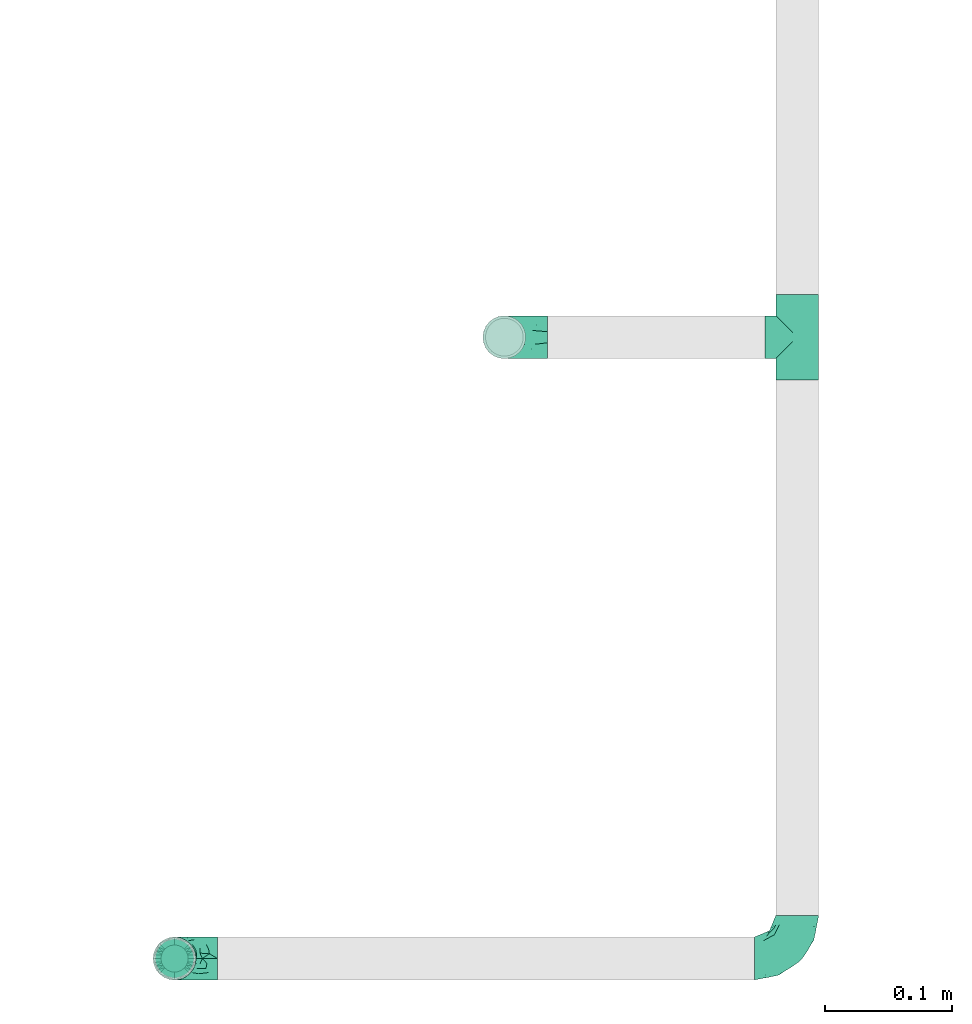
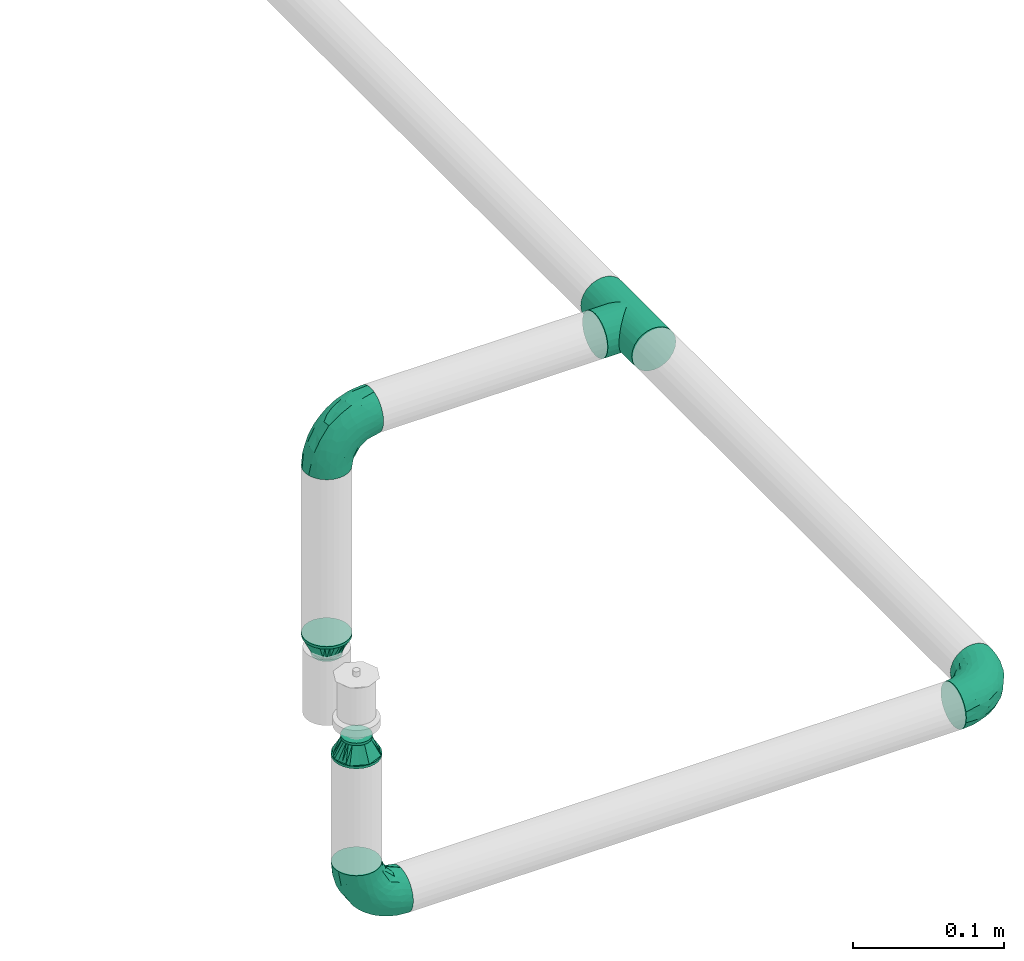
# One storey, part 25 of 157: 6 flow fittings.
"""IFC2X3 building model written with IfcOpenShell, lengths in millimetres."""

from ifc_helpers import new_model, entity, si_unit, converted_unit, derived_unit, direction, frame, origin_with_axes, place, context, subcontext, project, spatial, open_shell, surface_model, source, transform, mapped, type_object, element, save


model = new_model("IFC2X3")

# Units and contexts
model_context = context("Model", 3, precision=0.01, world=frame((0.0, 4.29681676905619e-09, 0.0)), true_north=direction((4.01073788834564e-13, 1.0)))
plan_context = context("Plan", 3, precision=0.01, world=frame((0.0, 4.29681676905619e-09, 0.0)), true_north=direction((4.01073788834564e-13, 1.0)))
body_context = subcontext(model_context, "Body", "Model", "MODEL_VIEW")
ifc_project = project(units=[converted_unit("PLANEANGLEUNIT", "DEGREE", entity("IfcPositiveLengthMeasure", 0.0174532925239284), si_unit("PLANEANGLEUNIT", "RADIAN"), dimensions=[0, 0, 0, 0, 0, 0, 0]), si_unit("AREAUNIT", "SQUARE_METRE"), si_unit("LENGTHUNIT", "METRE", prefix="MILLI"), si_unit("MASSUNIT", "GRAM", prefix="KILO"), si_unit("POWERUNIT", "WATT"), si_unit("PRESSUREUNIT", "PASCAL"), si_unit("FORCEUNIT", "NEWTON", prefix="KILO"), si_unit("ELECTRICCURRENTUNIT", "AMPERE"), si_unit("THERMODYNAMICTEMPERATUREUNIT", "DEGREE_CELSIUS"), si_unit("TIMEUNIT", "SECOND"), si_unit("VOLUMEUNIT", "CUBIC_METRE"), derived_unit("LINEARVELOCITYUNIT", [(si_unit("LENGTHUNIT", "METRE"), 1), (si_unit("TIMEUNIT", "SECOND"), -1)]), derived_unit("VOLUMETRICFLOWRATEUNIT", [(si_unit("VOLUMEUNIT", "CUBIC_METRE"), 1), (si_unit("TIMEUNIT", "SECOND"), -1)]), derived_unit("THERMALTRANSMITTANCEUNIT", [(si_unit("POWERUNIT", "WATT"), 1), (si_unit("THERMODYNAMICTEMPERATUREUNIT", "KELVIN"), -1), (si_unit("AREAUNIT", "SQUARE_METRE"), -1)])], contexts=[model_context, plan_context])

# Site, building, storey
site_placement = place(None, frame((0.0, -4.29681676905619e-09, 0.0), z_axis=(0.0, 0.0, 1.0), x_axis=(1.0, 0.0, 0.0)))
site = spatial("IfcSite", under=ifc_project, at=site_placement, CompositionType="ELEMENT")
building_placement = place(site_placement, frame((0.0, 4.29681676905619e-09, 0.0), z_axis=(0.0, 0.0, 1.0), x_axis=(1.0, 0.0, 0.0)))
building = spatial("IfcBuilding", under=site, at=building_placement, Name="mc-building", CompositionType="ELEMENT")
storey_placement = place(building_placement, frame((0.0, 0.0, 204000.0), z_axis=(0.0, 0.0, 1.0), x_axis=(1.0, 0.0, 0.0)))
storey = spatial("IfcBuildingStorey", under=building, at=storey_placement, Name="Nivå D", CompositionType="ELEMENT", Elevation=204000.0)

# Flow fittings
pipe_fitting_type_1 = type_object("IfcPipeFittingType", Name="magi_pipe_fe_tee_centric_90_NOR", PredefinedType="JUNCTION")
shared_shape_1 = source(origin_with_axes(), body_context, "Body", "SurfaceModel", [
    surface_model("IfcShellBasedSurfaceModel", [(-33.8, 4.37404, -16.32415), (-33.8, 0.0, -16.9), (-33.8, 16.32415, -4.37404), (-33.8, 8.45, -14.63583), (-33.8, 11.9501, -11.9501), (-33.8, 14.63583, -8.45), (-33.8, -16.9, 0.0), (-33.8, -11.9501, -11.9501), (-33.8, -14.63583, -8.45), (-33.8, -8.45, -14.63583), (-33.8, -4.37404, -16.32415), (-33.8, -16.32415, -4.37404), (-33.8, 14.63583, 8.45), (-33.8, 16.32415, 4.37404), (-33.8, -8.45, 14.63583), (-33.8, 8.45, 14.63583), (-33.8, 11.9501, 11.9501), (-33.8, 4.37404, 16.32415), (-33.8, 0.0, 16.9), (-33.8, -11.9501, 11.9501), (-33.8, -14.63583, 8.45), (-33.8, -16.32415, 4.37404), (-33.8, -4.37404, 16.32415), (-33.8, 16.9, 0.0), (33.8, 4.37404, -16.32415), (33.8, -16.9, 0.0), (33.8, 0.0, -16.9), (33.8, 14.63583, -8.45), (33.8, 8.45, -14.63583), (33.8, 16.32415, -4.37404), (33.8, 11.9501, -11.9501), (33.8, -16.32415, 4.37404), (33.8, -8.45, -14.63583), (33.8, -4.37404, -16.32415), (33.8, -11.9501, -11.9501), (33.8, -14.63583, -8.45), (33.8, -16.32415, -4.37404), (33.8, 16.32415, 4.37404), (33.8, 8.45, 14.63583), (33.8, 14.63583, 8.45), (33.8, 11.9501, 11.9501), (33.8, -8.45, 14.63583), (33.8, 4.37404, 16.32415), (33.8, -14.63583, 8.45), (33.8, -11.9501, 11.9501), (33.8, 0.0, 16.9), (33.8, -4.37404, 16.32415), (33.8, 16.9, 0.0), (16.28698, -16.28698, 4.51047), (16.9, -16.9, 0.0), (14.62704, -14.62704, 8.4652), (9.47213, -9.47213, 13.99602), (12.26343, -12.26343, 11.62834), (-16.9, -16.9, 0.0), (-16.28698, -16.28698, 4.51047), (-14.62704, -14.62704, 8.4652), (-12.26343, -12.26343, 11.62834), (-9.47213, -9.47213, 13.99602), (-6.42894, -6.42894, 15.62942), (6.42894, -6.42894, 15.62942), (3.24522, -3.24522, 16.58549), (0.0, 0.0, 16.9), (-3.24522, -3.24522, 16.58549), (3.24522, -3.24522, -16.58549), (0.0, 0.0, -16.9), (-3.24522, -3.24522, -16.58549), (-6.42894, -6.42894, -15.62942), (6.42894, -6.42894, -15.62942), (9.47213, -9.47213, -13.99602), (12.26343, -12.26343, -11.62834), (14.62704, -14.62704, -8.4652), (16.28698, -16.28698, -4.51047), (-9.47213, -9.47213, -13.99602), (-12.26343, -12.26343, -11.62834), (-16.28698, -16.28698, -4.51047), (-14.62704, -14.62704, -8.4652), (4.37404, -25.35, -16.32415), (-16.9, -25.35, 0.0), (0.0, -25.35, -16.9), (14.63583, -25.35, -8.45), (8.45, -25.35, -14.63583), (16.32415, -25.35, -4.37404), (11.9501, -25.35, -11.9501), (-11.9501, -25.35, -11.9501), (-8.45, -25.35, -14.63583), (-4.37404, -25.35, -16.32415), (-14.63583, -25.35, -8.45), (-16.32415, -25.35, -4.37404), (16.9, -25.35, 0.0), (8.45, -25.35, 14.63583), (16.32415, -25.35, 4.37404), (14.63583, -25.35, 8.45), (-8.45, -25.35, 14.63583), (11.9501, -25.35, 11.9501), (4.37404, -25.35, 16.32415), (-16.32415, -25.35, 4.37404), (-11.9501, -25.35, 11.9501), (-14.63583, -25.35, 8.45), (0.0, -25.35, 16.9), (-4.37404, -25.35, 16.32415)], [open_shell([[[0, 1, 2]], [[3, 0, 4]], [[0, 2, 5]], [[4, 0, 5]], [[6, 2, 1]], [[7, 8, 9]], [[1, 10, 9]], [[11, 6, 8]], [[1, 9, 8]], [[1, 8, 6]], [[6, 12, 2]], [[12, 13, 2]], [[14, 12, 6]], [[12, 14, 15]], [[16, 12, 15]], [[17, 15, 18]], [[19, 14, 20]], [[21, 20, 14]], [[22, 18, 14]], [[14, 6, 21]], [[14, 18, 15]], [[23, 2, 13]], [[24, 25, 26]], [[27, 24, 28]], [[27, 29, 24]], [[27, 28, 30]], [[31, 25, 24]], [[26, 32, 33]], [[26, 34, 32]], [[35, 25, 36]], [[35, 34, 26]], [[25, 35, 26]], [[24, 29, 31]], [[29, 37, 38]], [[38, 37, 39]], [[38, 31, 29]], [[38, 39, 40]], [[41, 38, 42]], [[43, 41, 44]], [[41, 43, 31]], [[41, 45, 46]], [[41, 31, 38]], [[42, 45, 41]], [[29, 47, 37]], [[31, 43, 48]], [[25, 31, 49]], [[49, 31, 48]], [[43, 50, 48]], [[44, 41, 51]], [[50, 43, 52]], [[51, 52, 44]], [[52, 43, 44]], [[53, 54, 21]], [[53, 21, 6]], [[21, 54, 20]], [[54, 55, 20]], [[56, 57, 19]], [[19, 20, 56]], [[19, 57, 14]], [[56, 20, 55]], [[14, 57, 58]], [[51, 41, 59]], [[60, 45, 61]], [[59, 46, 60]], [[46, 59, 41]], [[60, 46, 45]], [[61, 45, 42]], [[39, 37, 13]], [[16, 38, 40]], [[12, 40, 39]], [[42, 38, 15]], [[23, 37, 47]], [[62, 61, 18]], [[62, 22, 58]], [[22, 62, 18]], [[58, 22, 14]], [[61, 17, 18]], [[42, 17, 61]], [[15, 17, 42]], [[15, 38, 16]], [[12, 16, 40]], [[13, 12, 39]], [[37, 23, 13]], [[5, 27, 30]], [[23, 47, 29]], [[30, 28, 3]], [[27, 2, 29]], [[26, 33, 63]], [[26, 64, 24]], [[64, 26, 63]], [[28, 24, 0]], [[64, 0, 24]], [[4, 30, 3]], [[2, 27, 5]], [[5, 30, 4]], [[2, 23, 29]], [[65, 66, 10]], [[1, 0, 64]], [[1, 65, 10]], [[66, 9, 10]], [[0, 3, 28]], [[1, 64, 65]], [[63, 33, 67]], [[32, 34, 68]], [[69, 68, 34]], [[35, 70, 69]], [[69, 34, 35]], [[32, 68, 67]], [[36, 25, 49]], [[36, 71, 35]], [[71, 36, 49]], [[35, 71, 70]], [[72, 9, 66]], [[72, 7, 9]], [[7, 72, 73]], [[7, 73, 8]], [[74, 53, 11]], [[75, 74, 8]], [[74, 11, 8]], [[11, 53, 6]], [[75, 8, 73]], [[32, 67, 33]], [[76, 77, 78]], [[79, 76, 80]], [[79, 81, 76]], [[79, 80, 82]], [[77, 76, 81]], [[78, 83, 84]], [[84, 85, 78]], [[86, 77, 87]], [[83, 78, 86]], [[77, 86, 78]], [[81, 88, 77]], [[89, 88, 90]], [[89, 90, 91]], [[92, 77, 89]], [[89, 91, 93]], [[92, 89, 94]], [[95, 96, 97]], [[96, 95, 92]], [[92, 98, 99]], [[95, 77, 92]], [[94, 98, 92]], [[89, 77, 88]], [[77, 95, 53]], [[54, 53, 95]], [[97, 96, 56]], [[96, 92, 57]], [[95, 97, 54]], [[58, 92, 99]], [[55, 54, 97]], [[56, 55, 97]], [[58, 57, 92]], [[98, 61, 62]], [[58, 99, 62]], [[56, 96, 57]], [[62, 99, 98]], [[94, 60, 98]], [[89, 59, 94]], [[91, 90, 48]], [[52, 93, 91]], [[93, 51, 89]], [[49, 90, 88]], [[59, 60, 94]], [[51, 59, 89]], [[49, 48, 90]], [[50, 52, 91]], [[48, 50, 91]], [[51, 93, 52]], [[98, 60, 61]], [[88, 81, 49]], [[71, 49, 81]], [[79, 82, 69]], [[82, 80, 68]], [[81, 79, 71]], [[67, 80, 76]], [[70, 71, 79]], [[69, 70, 79]], [[67, 68, 80]], [[78, 64, 63]], [[67, 76, 63]], [[69, 82, 68]], [[63, 76, 78]], [[85, 65, 78]], [[84, 66, 85]], [[86, 87, 74]], [[86, 73, 83]], [[72, 84, 83]], [[53, 87, 77]], [[66, 65, 85]], [[72, 66, 84]], [[53, 74, 87]], [[75, 73, 86]], [[74, 75, 86]], [[72, 83, 73]], [[78, 65, 64]]])]),
])
flow_fitting_placement = place(storey_placement, frame((531330.55939, 402200.0, 2880.0), z_axis=(0.0, 0.0, 1.0), x_axis=(0.0, -1.0, 0.0)))
element("IfcFlowFitting", 1, at=flow_fitting_placement, inside=storey, type_object=pipe_fitting_type_1, Name="magi_pipe_fe_tee_centric_90_NOR", context=body_context, shape_type="MappedRepresentation", body=[
    mapped(shared_shape_1, transform((0.0, 0.0, 0.0), scale=1.0)),
])
pipe_fitting_type_2 = type_object("IfcPipeFittingType", Name="magi_pipe_fe_reducer_centric_short_NOR", PredefinedType="TRANSITION")
shared_shape_2 = source(origin_with_axes(), body_context, "Body", "SurfaceModel", [
    surface_model("IfcShellBasedSurfaceModel", [(14.4, 5.35, -9.26647), (14.4, 0.0, -10.7), (14.4, 2.76936, -10.33541), (14.4, 10.33541, -2.76936), (14.4, 7.56604, -7.56604), (14.4, -10.33541, -2.76936), (14.4, 9.26647, -5.35), (14.4, 0.0, 10.7), (14.4, -5.35, -9.26647), (14.4, -2.76936, -10.33541), (14.4, -7.56604, -7.56604), (14.4, -9.26647, -5.35), (14.4, 10.7, 0.0), (14.4, 10.33541, 2.76936), (14.4, 9.26647, 5.35), (14.4, 7.56604, 7.56604), (14.4, 2.76936, 10.33541), (14.4, 5.35, 9.26647), (14.4, -10.33541, 2.76936), (14.4, -7.56604, 7.56604), (14.4, -9.26647, 5.35), (14.4, -10.7, 0.0), (14.4, -2.76936, 10.33541), (14.4, -5.35, 9.26647), (12.4, 2.76936, 10.33541), (12.4, -10.33541, -2.76936), (12.4, 0.0, 10.7), (12.4, 5.35, 9.26647), (12.4, 7.56604, 7.56604), (12.4, 9.26647, 5.35), (12.4, 10.33541, 2.76936), (12.4, -10.33541, 2.76936), (12.4, -2.76936, 10.33541), (12.4, -7.56604, 7.56604), (12.4, -5.35, 9.26647), (12.4, -9.26647, 5.35), (12.4, -10.7, 0.0), (12.4, 10.33541, -2.76936), (12.4, 5.35, -9.26647), (12.4, 9.26647, -5.35), (12.4, 7.56604, -7.56604), (12.4, 2.76936, -10.33541), (12.4, -9.26647, -5.35), (12.4, -5.35, -9.26647), (12.4, -7.56604, -7.56604), (12.4, 0.0, -10.7), (12.4, -2.76936, -10.33541), (12.4, 10.7, 0.0), (-2.0, 11.9501, 11.9501), (-2.0, 0.0, 16.9), (-2.0, 4.37404, 16.32415), (-2.0, 8.45, 14.63583), (-2.0, 14.63583, 8.45), (-2.0, 16.32415, 4.37404), (-2.0, -16.32415, 4.37404), (-2.0, -8.45, 14.63583), (-2.0, -14.63583, 8.45), (-2.0, -11.9501, 11.9501), (-2.0, -4.37404, 16.32415), (-2.0, -16.32415, -4.37404), (-2.0, -16.9, 0.0), (-2.0, -8.45, -14.63583), (-2.0, 16.32415, -4.37404), (-2.0, 11.9501, -11.9501), (-2.0, 14.63583, -8.45), (-2.0, 8.45, -14.63583), (-2.0, 4.37404, -16.32415), (-2.0, 0.0, -16.9), (-2.0, -11.9501, -11.9501), (-2.0, -14.63583, -8.45), (-2.0, -4.37404, -16.32415), (-2.0, 16.9, 0.0), (0.0, 4.37404, -16.32415), (0.0, 8.45, -14.63583), (0.0, 11.9501, -11.9501), (0.0, 0.0, -16.9), (0.0, 16.32415, -4.37404), (0.0, 16.32415, 4.37404), (0.0, 14.63583, -8.45), (0.0, -8.45, -14.63583), (0.0, -4.37404, -16.32415), (0.0, -11.9501, -11.9501), (0.0, -16.32415, -4.37404), (0.0, -14.63583, -8.45), (0.0, -16.32415, 4.37404), (0.0, 16.9, 0.0), (0.0, 14.63583, 8.45), (0.0, 11.9501, 11.9501), (0.0, 4.37404, 16.32415), (0.0, 8.45, 14.63583), (0.0, 0.0, 16.9), (0.0, -14.63583, 8.45), (0.0, -16.9, 0.0), (0.0, -8.45, 14.63583), (0.0, -11.9501, 11.9501), (0.0, -4.37404, 16.32415), (12.4, 9.3625, -2.31662), (0.0, 14.42505, -5.97505), (0.0, 15.66253, -2.98753), (12.4, -6.6875, -6.94985), (0.0, -13.18758, -8.96258), (0.0, 2.98753, -15.66253), (12.4, 0.0, -9.26647), (12.4, 6.6875, -6.94985), (0.0, 8.96258, -13.18758), (12.4, -9.3625, -2.31662), (0.0, -15.66253, -2.98753), (0.0, -14.42505, -5.97505), (0.0, 5.97505, -14.42505), (0.0, -2.98753, -15.66253), (0.0, -8.96258, -13.18758), (0.0, 13.18758, -8.96258), (12.4, 8.025, -4.63324), (12.4, -2.675, -9.26647), (12.4, 2.675, -9.26647), (0.0, -5.97505, -14.42505), (12.4, -8.025, -4.63324), (12.4, -9.3625, 2.31662), (0.0, -14.42505, 5.97505), (0.0, -15.66253, 2.98753), (12.4, 6.6875, 6.94985), (0.0, 13.18758, 8.96258), (0.0, -2.98753, 15.66253), (12.4, 0.0, 9.26647), (12.4, -6.6875, 6.94985), (0.0, -8.96258, 13.18758), (12.4, 9.3625, 2.31662), (0.0, 15.66253, 2.98753), (0.0, 14.42505, 5.97505), (0.0, -5.97505, 14.42505), (0.0, 2.98753, 15.66253), (0.0, 8.96258, 13.18758), (0.0, -13.18758, 8.96258), (12.4, -8.025, 4.63324), (12.4, 2.675, 9.26647), (12.4, -2.675, 9.26647), (0.0, 5.97505, 14.42505), (12.4, 8.025, 4.63324)], [open_shell([[[0, 1, 2]], [[3, 0, 4]], [[5, 0, 3]], [[3, 4, 6]], [[7, 5, 3]], [[1, 8, 9]], [[1, 0, 8]], [[10, 5, 11]], [[5, 10, 8]], [[0, 5, 8]], [[3, 12, 13]], [[13, 14, 15]], [[13, 15, 16]], [[7, 3, 16]], [[16, 15, 17]], [[7, 18, 5]], [[18, 19, 20]], [[21, 5, 18]], [[19, 22, 23]], [[22, 19, 18]], [[7, 22, 18]], [[13, 16, 3]], [[24, 25, 26]], [[27, 25, 24]], [[28, 29, 30]], [[28, 25, 27]], [[31, 26, 25]], [[32, 33, 34]], [[33, 32, 31]], [[33, 31, 35]], [[32, 26, 31]], [[31, 25, 36]], [[30, 37, 28]], [[25, 28, 37]], [[38, 37, 39]], [[37, 38, 25]], [[38, 39, 40]], [[41, 25, 38]], [[42, 43, 44]], [[43, 42, 25]], [[43, 45, 46]], [[43, 25, 41]], [[41, 45, 43]], [[37, 30, 47]], [[25, 5, 36]], [[42, 11, 25]], [[8, 44, 43]], [[42, 44, 10]], [[9, 43, 46]], [[25, 11, 5]], [[5, 21, 36]], [[9, 8, 43]], [[10, 44, 8]], [[10, 11, 42]], [[1, 9, 46]], [[46, 45, 1]], [[41, 2, 45]], [[38, 0, 41]], [[6, 40, 39]], [[38, 40, 4]], [[3, 39, 37]], [[38, 4, 0]], [[0, 2, 41]], [[12, 3, 37]], [[6, 39, 3]], [[6, 4, 40]], [[47, 12, 37]], [[45, 2, 1]], [[30, 13, 47]], [[29, 14, 30]], [[17, 28, 27]], [[29, 28, 15]], [[16, 27, 24]], [[30, 14, 13]], [[13, 12, 47]], [[16, 17, 27]], [[15, 28, 17]], [[15, 14, 29]], [[7, 16, 24]], [[24, 26, 7]], [[32, 22, 26]], [[34, 23, 32]], [[20, 33, 35]], [[34, 33, 19]], [[18, 35, 31]], [[34, 19, 23]], [[23, 22, 32]], [[21, 18, 31]], [[20, 35, 18]], [[20, 19, 33]], [[36, 21, 31]], [[26, 22, 7]], [[48, 49, 50]], [[48, 50, 51]], [[48, 52, 53]], [[48, 53, 49]], [[49, 53, 54]], [[55, 56, 57]], [[55, 58, 49]], [[56, 55, 49]], [[49, 54, 56]], [[54, 59, 60]], [[54, 53, 61]], [[53, 62, 63]], [[63, 62, 64]], [[63, 65, 66]], [[61, 53, 63]], [[67, 63, 66]], [[59, 68, 69]], [[68, 59, 61]], [[61, 67, 70]], [[59, 54, 61]], [[63, 67, 61]], [[53, 71, 62]], [[72, 73, 74]], [[75, 72, 74]], [[74, 76, 77]], [[76, 74, 78]], [[74, 77, 79]], [[75, 79, 80]], [[75, 74, 79]], [[81, 82, 83]], [[82, 81, 79]], [[79, 84, 82]], [[77, 76, 85]], [[77, 86, 87]], [[77, 87, 88]], [[88, 84, 79]], [[88, 87, 89]], [[84, 88, 90]], [[90, 91, 84]], [[92, 82, 84]], [[91, 93, 94]], [[91, 90, 93]], [[93, 90, 95]], [[79, 77, 88]], [[59, 82, 60]], [[69, 83, 59]], [[79, 68, 61]], [[69, 68, 81]], [[80, 61, 70]], [[59, 83, 82]], [[82, 92, 60]], [[80, 79, 61]], [[81, 68, 79]], [[81, 83, 69]], [[75, 80, 70]], [[70, 67, 75]], [[66, 72, 67]], [[65, 73, 66]], [[78, 63, 64]], [[65, 63, 74]], [[76, 64, 62]], [[65, 74, 73]], [[73, 72, 66]], [[85, 76, 62]], [[78, 64, 76]], [[78, 74, 63]], [[71, 85, 62]], [[67, 72, 75]], [[53, 77, 71]], [[52, 86, 53]], [[89, 48, 51]], [[52, 48, 87]], [[88, 51, 50]], [[53, 86, 77]], [[77, 85, 71]], [[88, 89, 51]], [[87, 48, 89]], [[87, 86, 52]], [[90, 88, 50]], [[50, 49, 90]], [[58, 95, 49]], [[55, 93, 58]], [[91, 57, 56]], [[55, 57, 94]], [[84, 56, 54]], [[55, 94, 93]], [[93, 95, 58]], [[92, 84, 54]], [[91, 56, 84]], [[91, 94, 57]], [[60, 92, 54]], [[49, 95, 90]], [[27, 34, 47]], [[47, 34, 43]], [[43, 38, 47]], [[43, 34, 36]], [[90, 87, 94]], [[92, 94, 87]], [[87, 74, 92]], [[75, 92, 74]], [[81, 92, 75]], [[74, 87, 85]], [[96, 97, 98]], [[81, 99, 100]], [[101, 102, 75]], [[98, 85, 47]], [[74, 103, 104]], [[104, 103, 38]], [[105, 106, 107]], [[38, 108, 104]], [[102, 109, 75]], [[110, 99, 81]], [[47, 96, 98]], [[103, 111, 112]], [[109, 102, 113]], [[36, 92, 106]], [[102, 101, 114]], [[110, 115, 43]], [[96, 112, 97]], [[107, 116, 105]], [[36, 106, 105]], [[113, 115, 109]], [[43, 115, 113]], [[116, 107, 100]], [[108, 38, 114]], [[111, 103, 74]], [[111, 97, 112]], [[99, 110, 43]], [[116, 100, 99]], [[101, 108, 114]], [[117, 118, 119]], [[87, 120, 121]], [[122, 123, 90]], [[119, 92, 36]], [[94, 124, 125]], [[125, 124, 34]], [[126, 127, 128]], [[34, 129, 125]], [[123, 130, 90]], [[131, 120, 87]], [[36, 117, 119]], [[124, 132, 133]], [[130, 123, 134]], [[47, 85, 127]], [[123, 122, 135]], [[131, 136, 27]], [[117, 133, 118]], [[128, 137, 126]], [[47, 127, 126]], [[134, 136, 130]], [[27, 136, 134]], [[137, 128, 121]], [[129, 34, 135]], [[132, 124, 94]], [[132, 118, 133]], [[120, 131, 27]], [[137, 121, 120]], [[122, 129, 135]]])]),
])
for number, where, z_axis, x_axis, name in (
    (2, (530840.35, 401710.8343, 3002.14799999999), (-1.0, 0.0, 0.0), (0.0, 0.0, 1.0), "magi_pipe_fe_reducer_centric_short_NOR"),
    (3, (531100.0, 402200.0, 2709.35200000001), (0.0, -1.0, 0.0), (0.0, 0.0, -1.0), "magi_pipe_fe_reducer_centric_short_NOR"),
):
    element("IfcFlowFitting", number, at=place(storey_placement, frame(where, z_axis=z_axis, x_axis=x_axis)), inside=storey, type_object=pipe_fitting_type_2, Name=name, context=body_context, shape_type="MappedRepresentation", body=[
        mapped(shared_shape_2, transform((0.0, 0.0, 0.0), scale=1.0)),
    ])
pipe_fitting_type_3 = type_object("IfcPipeFittingType", Name="magi_pipe_fe_elbow_short_001", PredefinedType="BEND")
shared_shape_3 = source(origin_with_axes(), body_context, "Body", "SurfaceModel", [
    surface_model("IfcShellBasedSurfaceModel", [(-33.8, 8.45, -14.63583), (-33.8, 4.37404, -16.32415), (-33.8, 11.9501, -11.9501), (-33.8, -11.9501, -11.9501), (-33.8, -14.63583, -8.45), (-33.8, -8.45, -14.63583), (-33.8, 0.0, -16.9), (-33.8, -4.37404, -16.32415), (-33.8, -4.37404, 16.32415), (-33.8, 0.0, 16.9), (-33.8, -8.45, 14.63583), (-33.8, 16.32415, -4.37404), (-33.8, 14.63583, -8.45), (-33.8, -16.32415, -4.37404), (-33.8, -16.9, 0.0), (-33.8, -16.32415, 4.37404), (-33.8, 11.9501, 11.9501), (-33.8, 14.63583, 8.45), (-33.8, 16.32415, 4.37404), (-33.8, 4.37404, 16.32415), (-33.8, 8.45, 14.63583), (-33.8, -14.63583, 8.45), (-33.8, -11.9501, 11.9501), (-33.8, 16.9, 0.0), (-11.9501, 33.8, -11.9501), (0.0, 33.8, -16.9), (-4.37404, 33.8, -16.32415), (-8.45, 33.8, -14.63583), (-14.63583, 33.8, -8.45), (-16.32415, 33.8, -4.37404), (14.63583, 33.8, -8.45), (8.45, 33.8, 14.63583), (16.32415, 33.8, -4.37404), (8.45, 33.8, -14.63583), (11.9501, 33.8, -11.9501), (4.37404, 33.8, -16.32415), (16.32415, 33.8, 4.37404), (16.9, 33.8, 0.0), (-11.9501, 33.8, 11.9501), (-16.32415, 33.8, 4.37404), (-14.63583, 33.8, 8.45), (-8.45, 33.8, 14.63583), (-4.37404, 33.8, 16.32415), (11.9501, 33.8, 11.9501), (14.63583, 33.8, 8.45), (0.0, 33.8, 16.9), (4.37404, 33.8, 16.32415), (-16.9, 33.8, 0.0), (-24.79389, -13.12945, 9.48721), (-22.19287, -9.75018, 12.59315), (-24.09897, -14.97035, 0.0), (-14.93934, -10.76256, 8.5297), (-22.46095, -14.75051, 5.27077), (14.75051, 22.46094, 5.27077), (11.9251, 13.23888, 4.33236), (13.04069, 14.39795, 0.0), (7.71387, 13.68847, 11.55891), (9.75018, 22.19287, 12.59315), (4.10169, 13.0571, 14.04018), (-24.84007, -6.39063, 15.2048), (-25.81779, -2.23879, 16.61097), (-23.66549, 2.59054, 16.87119), (-26.50418, 14.06512, 11.08152), (-24.21253, 17.66365, 7.72657), (-29.58514, 15.86957, 7.00283), (-6.17382, -7.5455, 0.0), (-13.23888, -11.9251, 4.33236), (-14.39795, -13.04069, 0.0), (-17.81434, 18.87373, 11.97104), (-6.30846, 29.15138, 15.82987), (-2.31622, 25.28002, 16.85849), (-29.23923, 10.23435, 13.77053), (-1.45439, -2.85688, 7.61475), (-0.28326, 0.34872, 10.09509), (-5.74484, -4.04709, 10.4122), (-4.41137, 11.31918, 16.59407), (-8.39727, 3.10034, 15.7812), (-1.72649, 9.1306, 15.53089), (-17.39909, 24.75344, 7.64977), (-26.19233, 20.0512, 0.0), (-28.14518, 17.29657, 4.25857), (-26.05147, 6.6281, 15.96447), (-5.87354, 16.61944, 16.86968), (-12.51807, 12.51807, 16.48937), (-10.06312, 7.38516, 16.81295), (-3.01882, 3.01882, 13.81718), (-13.0571, -4.10169, 14.04018), (-16.82553, -0.15166, 16.38038), (10.76256, 14.93934, 8.5297), (13.12945, 24.79389, 9.48721), (6.39063, 24.84007, 15.2048), (2.23879, 25.81779, 16.61097), (-13.68847, -7.71387, 11.55891), (14.97035, 24.09897, 0.0), (-7.30894, 22.89991, 16.09489), (-10.67958, 26.17414, 14.008), (-12.78295, 18.26924, 15.06066), (-13.88562, 22.45231, 12.93244), (-18.04944, 15.16501, 14.04434), (-23.11658, 20.08178, 4.02986), (-21.84989, 21.84989, 0.0), (-18.55817, 25.48277, 3.93065), (-13.95142, 26.94732, 11.03289), (-18.57098, 7.23906, 16.59756), (-16.58335, 4.14122, 16.89279), (-17.96666, 11.46709, 15.63151), (-9.84453, 17.54304, 16.18938), (0.15166, 16.82553, 16.38038), (-23.27207, 11.47201, 14.23154), (3.84842, 5.86994, 10.70473), (-8.0212, -7.54413, 7.93275), (1.00345, -2.19508, 4.57414), (5.13203, 3.01004, 5.90201), (5.24161, 1.7543, 2.53265), (8.70457, 7.04947, 3.99182), (-20.0512, 26.19233, 0.0), (8.4852, 8.76699, 7.09296), (-4.55488, -6.72064, 4.90681), (2.05031, -2.05031, 0.0), (7.5455, 6.17382, 0.0), (-26.75399, 2.1369, -16.845), (-14.61995, 24.73803, -11.27736), (-28.45274, -13.45335, -9.81895), (-26.00469, 6.63555, -15.96645), (-23.06726, 20.04573, -4.26202), (-13.80647, -4.26506, -14.17873), (-14.67501, -0.21081, -16.07388), (-6.7902, -0.2828, -13.8478), (-24.53586, 11.08096, -14.13417), (-26.72048, 14.00837, -11.05776), (10.0967, 24.44989, -12.75976), (5.83237, 21.40218, -15.03047), (6.66249, 28.54238, -15.38093), (-20.38182, 15.48705, -12.74596), (12.53268, 21.23441, -9.15363), (12.54494, 15.67504, -5.54878), (9.7522, 12.89279, -8.66343), (-15.65186, 19.64213, -13.01327), (-12.03528, 20.66498, -14.67665), (-15.61907, 15.61906, -14.83879), (-25.56551, -15.26206, 0.0), (-24.65452, -15.12934, -5.50955), (13.45335, 28.45274, -9.81895), (15.12934, 24.65452, -5.50955), (-7.35442, -8.31014, -5.65563), (-15.67504, -12.54494, -5.54878), (-24.44989, -10.0967, -12.75976), (0.16522, 0.41303, -9.71728), (-5.70658, -5.33066, -8.89288), (-5.13869, -2.37198, -11.53565), (-21.23441, -12.53268, -9.15363), (0.71146, 7.93863, -14.09382), (0.21081, 14.67501, -16.07388), (3.49291, 14.42772, -14.76381), (-24.89911, -2.13088, -16.591), (-28.54238, -6.66249, -15.38093), (-18.44386, -7.71663, -13.26957), (2.13088, 24.89911, -16.591), (-28.64342, 17.44413, -2.89318), (1.70017, -1.28722, -5.09504), (-16.57067, 26.81947, -7.36596), (-17.69055, 27.4263, -3.76405), (-12.89279, -9.7522, -8.66343), (-5.96611, 5.96611, -15.95814), (-20.53709, 20.09345, -8.28985), (-2.1369, 26.75399, -16.845), (-6.89872, 24.58781, -16.02578), (-10.60739, 26.53157, -13.98044), (-21.40218, -5.83237, -15.03047), (2.93192, 5.89627, -11.55917), (6.89393, 12.61842, -11.82233), (5.58056, 5.95325, -8.79455), (-3.99512, 18.61798, -16.89635), (8.31014, 7.35442, -5.65563), (-9.1383, 9.86148, -16.89041), (-9.99983, 16.02119, -16.39699), (-16.68576, 9.78031, -16.34199), (-27.01915, 16.61158, -7.12979), (15.26206, 25.56551, 0.0), (-18.61798, 3.99512, -16.89635), (-19.37495, 27.82495, 0.0), (-12.61842, -6.89393, -11.82233), (-18.84705, 19.14018, -10.96545)], [open_shell([[[0, 1, 2]], [[3, 4, 5]], [[6, 7, 5]], [[8, 9, 10]], [[1, 6, 2]], [[11, 12, 2]], [[4, 2, 6]], [[2, 13, 10]], [[5, 4, 6]], [[2, 4, 13]], [[14, 15, 13]], [[11, 2, 16]], [[11, 17, 18]], [[11, 16, 17]], [[19, 20, 16]], [[16, 2, 10]], [[19, 16, 10]], [[21, 22, 15]], [[22, 13, 15]], [[22, 10, 13]], [[10, 9, 19]], [[11, 18, 23]], [[24, 25, 26]], [[24, 26, 27]], [[24, 28, 29]], [[25, 24, 30]], [[31, 32, 24]], [[33, 30, 34]], [[33, 35, 25]], [[25, 30, 33]], [[32, 30, 24]], [[32, 36, 37]], [[38, 24, 29]], [[39, 40, 29]], [[40, 38, 29]], [[38, 41, 42]], [[38, 31, 24]], [[31, 38, 42]], [[36, 43, 44]], [[36, 32, 43]], [[31, 45, 46]], [[32, 31, 43]], [[42, 45, 31]], [[39, 29, 47]], [[22, 48, 49]], [[15, 14, 50]], [[51, 48, 52]], [[53, 54, 55]], [[48, 22, 21]], [[15, 52, 21]], [[56, 57, 58]], [[49, 10, 22]], [[49, 59, 10]], [[9, 60, 61]], [[62, 63, 64]], [[65, 66, 67]], [[57, 43, 31]], [[62, 68, 63]], [[42, 69, 70]], [[20, 71, 16]], [[8, 60, 9]], [[72, 73, 74]], [[75, 76, 77]], [[16, 62, 17]], [[40, 39, 78]], [[79, 23, 80]], [[64, 18, 17]], [[9, 61, 19]], [[19, 81, 20]], [[82, 83, 84]], [[74, 85, 86]], [[59, 86, 87]], [[88, 89, 57]], [[90, 31, 46]], [[44, 53, 36]], [[46, 45, 91]], [[54, 53, 88]], [[44, 89, 53]], [[92, 86, 49]], [[89, 44, 43]], [[10, 59, 8]], [[53, 55, 93]], [[93, 36, 53]], [[66, 52, 67]], [[94, 82, 70]], [[95, 96, 94]], [[97, 98, 96]], [[79, 99, 100]], [[41, 38, 95]], [[101, 100, 99]], [[68, 78, 63]], [[42, 41, 69]], [[23, 18, 80]], [[95, 94, 69]], [[78, 101, 99]], [[38, 102, 95]], [[70, 45, 42]], [[97, 95, 102]], [[15, 50, 52]], [[90, 57, 31]], [[57, 90, 58]], [[81, 19, 61]], [[103, 104, 84]], [[105, 81, 103]], [[38, 40, 102]], [[106, 96, 83]], [[94, 106, 82]], [[91, 70, 107]], [[71, 62, 16]], [[62, 108, 98]], [[86, 59, 49]], [[67, 52, 50]], [[60, 59, 87]], [[92, 49, 51]], [[86, 85, 76]], [[91, 90, 46]], [[37, 36, 93]], [[107, 77, 58]], [[107, 58, 90]], [[58, 85, 109]], [[110, 74, 92]], [[72, 74, 110]], [[66, 51, 52]], [[72, 111, 112]], [[113, 114, 112]], [[56, 88, 57]], [[52, 48, 21]], [[49, 48, 51]], [[57, 89, 43]], [[53, 89, 88]], [[103, 81, 61]], [[71, 81, 108]], [[18, 64, 80]], [[63, 78, 99]], [[47, 115, 101]], [[101, 115, 100]], [[40, 78, 102]], [[68, 102, 78]], [[97, 96, 95]], [[105, 98, 108]], [[103, 84, 83]], [[107, 70, 82]], [[76, 84, 87]], [[82, 84, 75]], [[70, 91, 45]], [[90, 91, 107]], [[59, 60, 8]], [[61, 60, 87]], [[73, 85, 74]], [[109, 112, 116]], [[103, 61, 104]], [[105, 103, 83]], [[96, 105, 83]], [[81, 105, 108]], [[96, 98, 105]], [[62, 98, 68]], [[61, 87, 104]], [[87, 84, 104]], [[86, 76, 87]], [[77, 76, 85]], [[58, 77, 85]], [[75, 77, 107]], [[82, 75, 107]], [[76, 75, 84]], [[81, 71, 20]], [[62, 71, 108]], [[95, 69, 41]], [[70, 69, 94]], [[62, 64, 17]], [[80, 63, 99]], [[63, 80, 64]], [[80, 99, 79]], [[66, 65, 117]], [[110, 66, 117]], [[112, 114, 116]], [[118, 117, 65]], [[110, 92, 51]], [[112, 111, 113]], [[119, 55, 54]], [[74, 86, 92]], [[58, 109, 56]], [[116, 56, 109]], [[66, 110, 51]], [[72, 110, 117]], [[111, 72, 117]], [[73, 112, 109]], [[117, 118, 111]], [[113, 111, 118]], [[118, 119, 113]], [[114, 119, 54]], [[119, 114, 113]], [[116, 54, 88]], [[54, 116, 114]], [[116, 88, 56]], [[112, 73, 72]], [[85, 73, 109]], [[78, 39, 101]], [[47, 101, 39]], [[102, 68, 97]], [[97, 68, 98]], [[82, 106, 83]], [[94, 96, 106]], [[1, 120, 6]], [[28, 24, 121]], [[3, 122, 4]], [[0, 123, 1]], [[100, 124, 79]], [[125, 126, 127]], [[128, 2, 129]], [[130, 131, 132]], [[128, 129, 133]], [[134, 135, 136]], [[137, 138, 139]], [[128, 0, 2]], [[67, 140, 141]], [[134, 142, 143]], [[141, 13, 4]], [[144, 65, 145]], [[146, 3, 5]], [[147, 148, 149]], [[145, 141, 150]], [[151, 152, 153]], [[154, 7, 6]], [[5, 155, 146]], [[150, 146, 156]], [[155, 5, 7]], [[143, 135, 134]], [[35, 157, 25]], [[23, 79, 158]], [[148, 159, 144]], [[160, 161, 29]], [[145, 162, 144]], [[163, 152, 151]], [[29, 28, 160]], [[121, 164, 160]], [[33, 34, 130]], [[25, 165, 26]], [[26, 165, 166]], [[142, 34, 30]], [[24, 27, 167]], [[124, 161, 164]], [[157, 35, 132]], [[155, 154, 168]], [[123, 0, 128]], [[169, 170, 171]], [[172, 157, 152]], [[26, 166, 27]], [[132, 35, 33]], [[142, 130, 34]], [[168, 154, 126]], [[136, 135, 173]], [[133, 137, 139]], [[2, 12, 129]], [[170, 131, 130]], [[30, 32, 143]], [[172, 174, 175]], [[176, 123, 128]], [[158, 177, 11]], [[135, 55, 119]], [[167, 27, 166]], [[175, 166, 172]], [[137, 167, 138]], [[122, 141, 4]], [[140, 14, 13]], [[32, 37, 178]], [[170, 130, 134]], [[152, 157, 131]], [[165, 157, 172]], [[153, 170, 151]], [[152, 163, 174]], [[168, 125, 156]], [[122, 146, 150]], [[120, 154, 6]], [[179, 174, 126]], [[179, 126, 154]], [[126, 163, 127]], [[162, 145, 150]], [[140, 13, 141]], [[32, 178, 143]], [[55, 143, 178]], [[177, 129, 12]], [[128, 133, 139]], [[176, 128, 139]], [[120, 123, 179]], [[121, 160, 28]], [[161, 100, 180]], [[166, 175, 138]], [[121, 24, 167]], [[161, 47, 29]], [[79, 124, 158]], [[124, 164, 177]], [[161, 124, 100]], [[136, 171, 170]], [[127, 163, 151]], [[147, 171, 159]], [[148, 144, 162]], [[127, 151, 169]], [[127, 181, 125]], [[129, 177, 164]], [[12, 11, 177]], [[159, 65, 144]], [[67, 141, 145]], [[143, 55, 135]], [[135, 119, 173]], [[123, 120, 1]], [[154, 120, 179]], [[157, 165, 25]], [[166, 165, 172]], [[172, 152, 174]], [[176, 139, 175]], [[126, 174, 163]], [[176, 174, 179]], [[174, 176, 175]], [[123, 176, 179]], [[150, 181, 162]], [[127, 149, 181]], [[181, 148, 162]], [[159, 148, 147]], [[171, 136, 173]], [[170, 134, 136]], [[159, 171, 173]], [[171, 147, 169]], [[169, 147, 149]], [[151, 170, 169]], [[164, 182, 129]], [[182, 121, 137]], [[181, 149, 148]], [[169, 149, 127]], [[182, 137, 133]], [[167, 137, 121]], [[166, 138, 167]], [[175, 139, 138]], [[129, 182, 133]], [[121, 182, 164]], [[161, 160, 164]], [[47, 161, 180]], [[177, 158, 124]], [[23, 158, 11]], [[130, 132, 33]], [[157, 132, 131]], [[143, 142, 30]], [[130, 142, 134]], [[154, 155, 7]], [[146, 155, 168]], [[146, 122, 3]], [[141, 122, 150]], [[152, 131, 153]], [[159, 119, 118]], [[67, 145, 65]], [[170, 153, 131]], [[119, 159, 173]], [[159, 118, 65]], [[156, 125, 181]], [[126, 125, 168]], [[150, 156, 181]], [[168, 156, 146]]])]),
])
for number, where, z_axis, x_axis, name in (
    (4, (530840.35, 401710.8343, 2880.0), (0.0, -1.0, 0.0), (0.0, 0.0, -1.0), "magi_pipe_fe_elbow_short_001"),
    (5, (531100.0, 402200.0, 2880.0), (0.0, 1.0, 0.0), (0.0, 0.0, 1.0), "magi_pipe_fe_elbow_short_001"),
    (6, (531330.55939, 401710.8343, 2880.0), (0.0, 0.0, 1.0), (1.0, 0.0, 0.0), "magi_pipe_fe_elbow_short_001"),
):
    element("IfcFlowFitting", number, at=place(storey_placement, frame(where, z_axis=z_axis, x_axis=x_axis)), inside=storey, type_object=pipe_fitting_type_3, Name=name, context=body_context, shape_type="MappedRepresentation", body=[
        mapped(shared_shape_3, transform((0.0, 0.0, 0.0), scale=1.0)),
    ])

save(model, "model.ifc")
